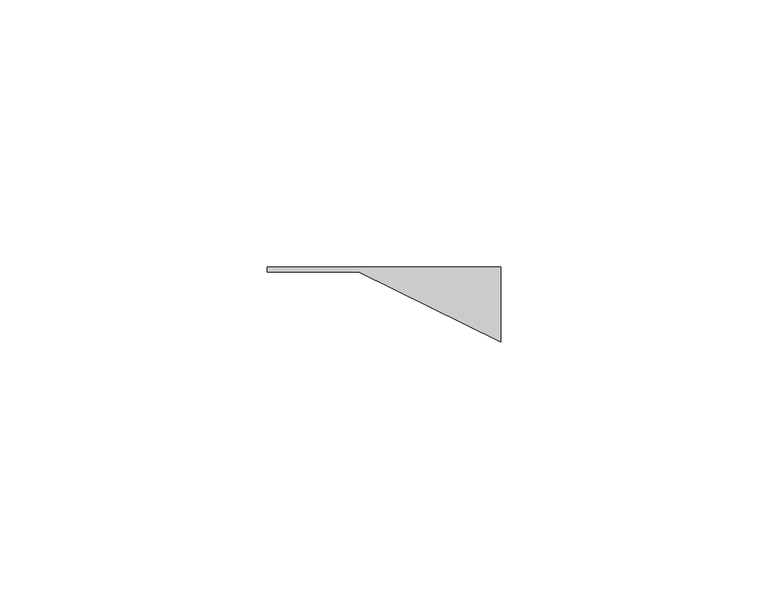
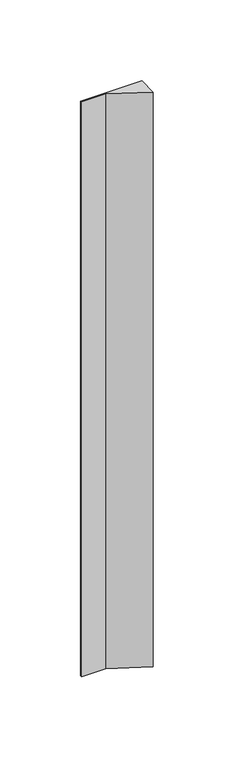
"""IFC4 building model written with IfcOpenShell, lengths in millimetres: plate geometry, ATELIERS 3S_GLACE PISSAILLAS 1000_VERTICAL : AZURO."""

from ifc_helpers import new_model, si_unit, origin, origin_with_axes, place, context, project, spatial, polyline, outline, extrude, source, transform, mapped, element, save


def plate_f118949f(model_context):
    return source(origin(), model_context, "Body", "SweptSolid", [
        extrude(outline(polyline([(-21.7987415, 0.0), (21.7987415, 0.0), (21.7987415, -14.0071277), (-4.7515298, -0.864757), (-21.7987415, -0.864757), (-21.7987415, 0.0)])), origin_with_axes(), (0.0, 0.0, 1.0), 433.4619218),
    ])


if __name__ == "__main__":
    model = new_model("IFC4")
    model_context = context("Model", 3, world=origin())
    ifc_project = project(units=[si_unit("LENGTHUNIT", "METRE", prefix="MILLI")], contexts=[model_context])
    site = spatial("IfcSite", under=ifc_project)
    building = spatial("IfcBuilding", under=site)
    placement = place(None, origin())
    plate_shape = plate_f118949f(model_context)
    element("IfcPlate", 1, ObjectType="ATELIERS 3S_GLACE PISSAILLAS 1000_VERTICAL : AZURO", at=placement, inside=building, context=model_context, shape_type="MappedRepresentation", body=[
        mapped(plate_shape, transform((0.0, 0.0, 0.0), x_axis=(1.0, 0.0, 0.0), y_axis=(0.0, 1.0, 0.0), z_axis=(0.0, 0.0, 1.0))),
    ])
    save(model, "model.ifc")
